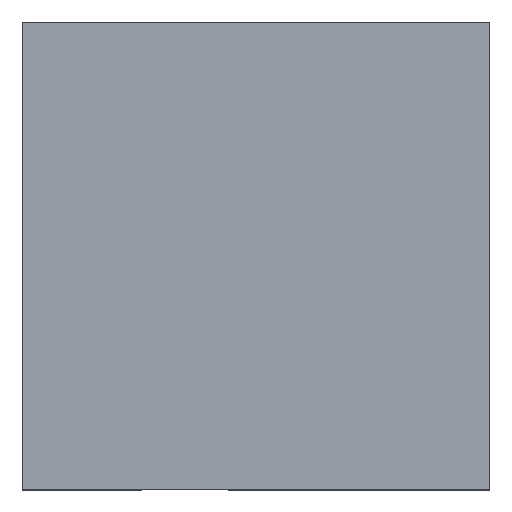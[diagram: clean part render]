
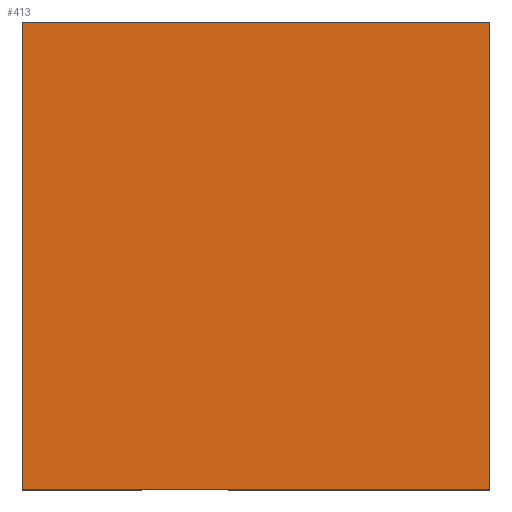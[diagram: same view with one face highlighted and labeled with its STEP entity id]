
A CAD part, top view. The second image highlights one B-rep face of the part: STEP entity #413.
In plain terms, the highlighted planar face has unit normal (0, 0, 1).
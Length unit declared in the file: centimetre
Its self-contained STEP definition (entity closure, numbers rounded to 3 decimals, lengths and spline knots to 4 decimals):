
#37 = PLANE ( 'NONE',  #628 ) ;
#65 = ORIENTED_EDGE ( 'NONE', *, *, #322, .T. ) ;
#73 = LINE ( 'NONE', #362, #634 ) ;
#96 = EDGE_CURVE ( 'NONE', #503, #498, #160, .T. ) ;
#124 = CARTESIAN_POINT ( 'NONE',  ( 1000., 0., 1000. ) ) ;
#130 = VECTOR ( 'NONE', #263, 100. ) ;
#134 = CARTESIAN_POINT ( 'NONE',  ( 0., 0., 1000. ) ) ;
#160 = LINE ( 'NONE', #456, #130 ) ;
#161 = ORIENTED_EDGE ( 'NONE', *, *, #96, .T. ) ;
#213 = LINE ( 'NONE', #423, #598 ) ;
#216 = DIRECTION ( 'NONE',  ( -1., 0., 0. ) ) ;
#229 = CARTESIAN_POINT ( 'NONE',  ( 1000., 1000., 1000. ) ) ;
#231 = VECTOR ( 'NONE', #625, 100. ) ;
#236 = DIRECTION ( 'NONE',  ( 0., 0., 1. ) ) ;
#263 = DIRECTION ( 'NONE',  ( 0., -1., 0. ) ) ;
#283 = VERTEX_POINT ( 'NONE', #124 ) ;
#298 = ORIENTED_EDGE ( 'NONE', *, *, #342, .T. ) ;
#322 = EDGE_CURVE ( 'NONE', #498, #283, #73, .T. ) ;
#326 = EDGE_CURVE ( 'NONE', #283, #467, #577, .T. ) ;
#342 = EDGE_CURVE ( 'NONE', #467, #503, #213, .T. ) ;
#362 = CARTESIAN_POINT ( 'NONE',  ( 0., 0., 1000. ) ) ;
#413 = ADVANCED_FACE ( 'NONE', ( #540 ), #37, .T. ) ;
#423 = CARTESIAN_POINT ( 'NONE',  ( 0., 1000., 1000. ) ) ;
#439 = DIRECTION ( 'NONE',  ( 1., 0., 0. ) ) ;
#456 = CARTESIAN_POINT ( 'NONE',  ( 0., 1000., 1000. ) ) ;
#467 = VERTEX_POINT ( 'NONE', #229 ) ;
#470 = CARTESIAN_POINT ( 'NONE',  ( 1000., 1000., 1000. ) ) ;
#486 = CARTESIAN_POINT ( 'NONE',  ( 0., 1000., 1000. ) ) ;
#495 = ORIENTED_EDGE ( 'NONE', *, *, #326, .T. ) ;
#498 = VERTEX_POINT ( 'NONE', #635 ) ;
#503 = VERTEX_POINT ( 'NONE', #486 ) ;
#519 = EDGE_LOOP ( 'NONE', ( #161, #65, #495, #298 ) ) ;
#522 = DIRECTION ( 'NONE',  ( 1., 0., 0. ) ) ;
#540 = FACE_OUTER_BOUND ( 'NONE', #519, .T. ) ;
#577 = LINE ( 'NONE', #470, #231 ) ;
#598 = VECTOR ( 'NONE', #216, 100. ) ;
#625 = DIRECTION ( 'NONE',  ( 0., 1., 0. ) ) ;
#628 = AXIS2_PLACEMENT_3D ( 'NONE', #134, #236, #439 ) ;
#634 = VECTOR ( 'NONE', #522, 100. ) ;
#635 = CARTESIAN_POINT ( 'NONE',  ( 0., 0., 1000. ) ) ;
